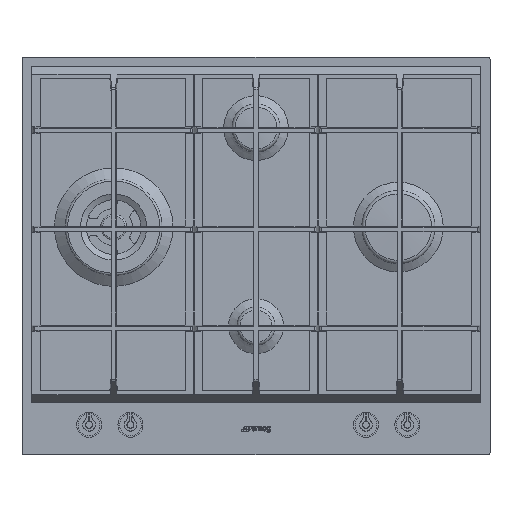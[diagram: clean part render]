
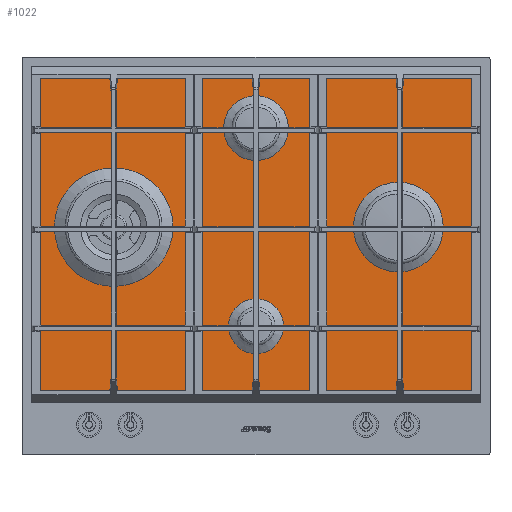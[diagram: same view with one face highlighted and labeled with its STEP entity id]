
A CAD part, top view. The second image highlights one B-rep face of the part: STEP entity #1022.
In plain terms, the highlighted planar face has unit normal (0, 0, 1).
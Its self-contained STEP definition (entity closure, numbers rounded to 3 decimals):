
#677=FACE_BOUND('',#2678,.T.);
#678=FACE_BOUND('',#2679,.T.);
#679=FACE_BOUND('',#2680,.T.);
#680=FACE_BOUND('',#2681,.T.);
#681=FACE_BOUND('',#2682,.T.);
#1022=ADVANCED_FACE('',(#677,#678,#679,#680,#681),#1620,.F.);
#1620=PLANE('',#11876);
#2678=EDGE_LOOP('',(#6044));
#2679=EDGE_LOOP('',(#6045));
#2680=EDGE_LOOP('',(#6046));
#2681=EDGE_LOOP('',(#6047));
#2682=EDGE_LOOP('',(#6048,#6049,#6050,#6051));
#3428=LINE('',#16318,#4578);
#3430=LINE('',#16322,#4580);
#3432=LINE('',#16326,#4582);
#3434=LINE('',#16330,#4584);
#4578=VECTOR('',#13182,1.);
#4580=VECTOR('',#13186,1.);
#4582=VECTOR('',#13190,1.);
#4584=VECTOR('',#13194,1.);
#6044=ORIENTED_EDGE('',*,*,#10016,.F.);
#6045=ORIENTED_EDGE('',*,*,#10017,.F.);
#6046=ORIENTED_EDGE('',*,*,#10018,.F.);
#6047=ORIENTED_EDGE('',*,*,#10019,.F.);
#6048=ORIENTED_EDGE('',*,*,#10009,.T.);
#6049=ORIENTED_EDGE('',*,*,#10015,.T.);
#6050=ORIENTED_EDGE('',*,*,#10013,.T.);
#6051=ORIENTED_EDGE('',*,*,#10011,.T.);
#8900=VERTEX_POINT('',#16317);
#8901=VERTEX_POINT('',#16319);
#8902=VERTEX_POINT('',#16323);
#8903=VERTEX_POINT('',#16327);
#8904=VERTEX_POINT('',#16333);
#8905=VERTEX_POINT('',#16335);
#8906=VERTEX_POINT('',#16337);
#8907=VERTEX_POINT('',#16339);
#10009=EDGE_CURVE('',#8901,#8900,#3428,.T.);
#10011=EDGE_CURVE('',#8902,#8901,#3430,.T.);
#10013=EDGE_CURVE('',#8903,#8902,#3432,.T.);
#10015=EDGE_CURVE('',#8900,#8903,#3434,.T.);
#10016=EDGE_CURVE('',#8904,#8904,#11460,.T.);
#10017=EDGE_CURVE('',#8905,#8905,#11461,.T.);
#10018=EDGE_CURVE('',#8906,#8906,#11462,.T.);
#10019=EDGE_CURVE('',#8907,#8907,#11463,.T.);
#11460=CIRCLE('',#11872,15.);
#11461=CIRCLE('',#11873,15.);
#11462=CIRCLE('',#11874,15.);
#11463=CIRCLE('',#11875,15.);
#11872=AXIS2_PLACEMENT_3D('',#16332,#13197,#13198);
#11873=AXIS2_PLACEMENT_3D('',#16334,#13199,#13200);
#11874=AXIS2_PLACEMENT_3D('',#16336,#13201,#13202);
#11875=AXIS2_PLACEMENT_3D('',#16338,#13203,#13204);
#11876=AXIS2_PLACEMENT_3D('',#16340,#13205,#13206);
#13182=DIRECTION('',(0.,-1.,0.));
#13186=DIRECTION('',(-1.,0.,0.));
#13190=DIRECTION('',(0.,1.,0.));
#13194=DIRECTION('',(1.,0.,0.));
#13197=DIRECTION('',(0.,0.,1.));
#13198=DIRECTION('',(1.,0.,0.));
#13199=DIRECTION('',(0.,0.,1.));
#13200=DIRECTION('',(1.,0.,0.));
#13201=DIRECTION('',(0.,0.,1.));
#13202=DIRECTION('',(1.,0.,0.));
#13203=DIRECTION('',(0.,0.,1.));
#13204=DIRECTION('',(1.,0.,0.));
#13205=DIRECTION('',(0.,0.,-1.));
#13206=DIRECTION('',(-1.,0.,0.));
#16317=CARTESIAN_POINT('',(-288.,-179.1,3.));
#16318=CARTESIAN_POINT('',(-288.,-179.1,3.));
#16319=CARTESIAN_POINT('',(-288.,251.9,3.));
#16322=CARTESIAN_POINT('',(-288.,251.9,3.));
#16323=CARTESIAN_POINT('',(288.,251.9,3.));
#16326=CARTESIAN_POINT('',(288.,251.9,3.));
#16327=CARTESIAN_POINT('',(288.,-179.1,3.));
#16330=CARTESIAN_POINT('',(288.,-179.1,3.));
#16332=CARTESIAN_POINT('',(-182.5,45.9,3.));
#16333=CARTESIAN_POINT('',(-167.5,45.9,3.));
#16334=CARTESIAN_POINT('',(0.,-81.1,3.));
#16335=CARTESIAN_POINT('',(15.,-81.1,3.));
#16336=CARTESIAN_POINT('',(0.,172.9,3.));
#16337=CARTESIAN_POINT('',(15.,172.9,3.));
#16338=CARTESIAN_POINT('',(182.5,45.9,3.));
#16339=CARTESIAN_POINT('',(197.5,45.9,3.));
#16340=CARTESIAN_POINT('',(0.,8.9,3.));
